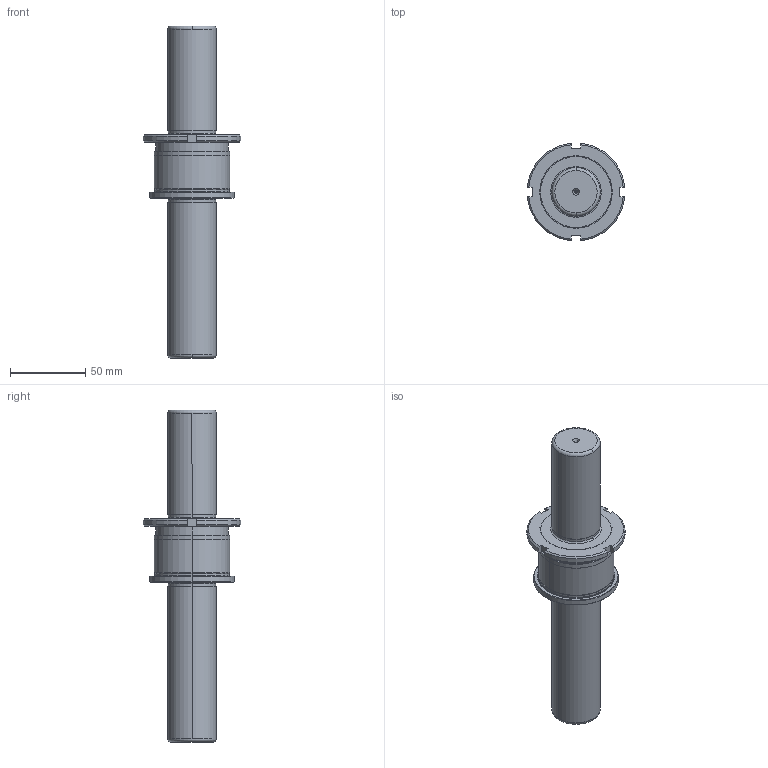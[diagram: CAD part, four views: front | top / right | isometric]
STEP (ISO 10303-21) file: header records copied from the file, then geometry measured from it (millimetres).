
FILE_DESCRIPTION((''),'2;1');
FILE_NAME('CMF_032_220.stp','2008-11-04T11:12:21',(''),(''),'Mechanical Desktop 2009','Mechanical Desktop 2009',', , ');
FILE_SCHEMA(('CONFIG_CONTROL_DESIGN'));
Length unit declared in the file: millimetre
Products named in the file (2): Product; blmdl1
Assembly tree (1 placements, depth 2):
  Product
    blmdl1
Bounding box: 64.72 x 64.72 x 220 mm (x, y, z)
Volume: 231944.3 mm3; surface area: 34384.1 mm2
Topology: 2 solids, 2 shells, 92 faces, 223 edges, 141 vertices
Faces by surface type: cylinder 30, cone 28, plane 24, bspline 6, torus 4
Entity records: 3035 total; most frequent: CARTESIAN_POINT 750, DIRECTION 496, ORIENTED_EDGE 438, EDGE_CURVE 219, AXIS2_PLACEMENT_3D 205, VERTEX_POINT 141, CIRCLE 117, EDGE_LOOP 104
